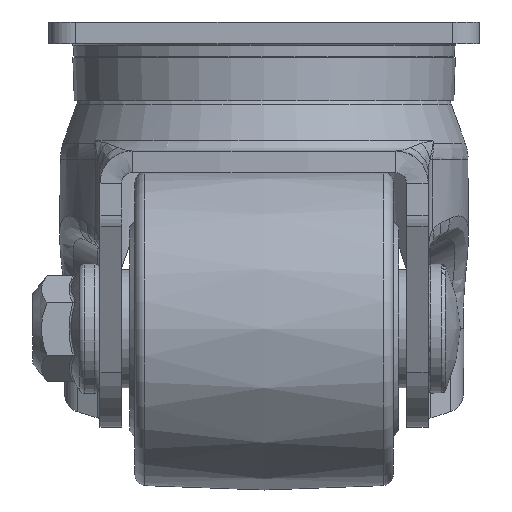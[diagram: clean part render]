
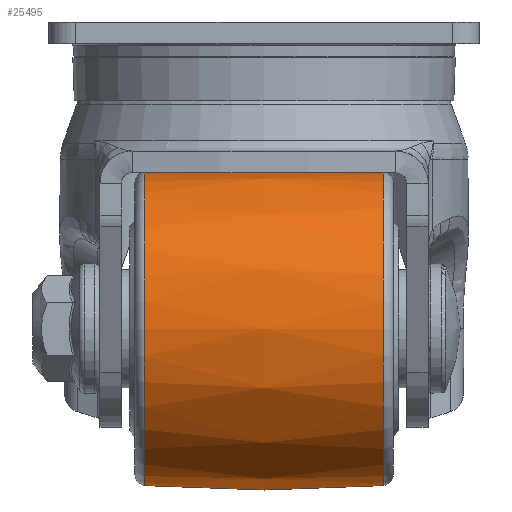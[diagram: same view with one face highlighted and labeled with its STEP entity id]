
A CAD part, left-side view. The second image highlights one B-rep face of the part: STEP entity #25495.
In plain terms, the highlighted free-form (B-spline) face has degree [2, 2] with [3, 9] control points.
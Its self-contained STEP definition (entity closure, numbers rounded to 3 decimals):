
#7180=(
BOUNDED_CURVE()
B_SPLINE_CURVE(2,(#34884,#34885,#34886),.UNSPECIFIED.,.F.,.F.)
B_SPLINE_CURVE_WITH_KNOTS((3,3),(-0.074,0.074),
 .UNSPECIFIED.)
CURVE()
GEOMETRIC_REPRESENTATION_ITEM()
RATIONAL_B_SPLINE_CURVE((1.,0.997,1.))
REPRESENTATION_ITEM('')
);
#7187=(
BOUNDED_SURFACE()
B_SPLINE_SURFACE(2,2,((#34854,#34855,#34856,#34857,#34858,#34859,#34860,
#34861,#34862),(#34863,#34864,#34865,#34866,#34867,#34868,#34869,#34870,
#34871),(#34872,#34873,#34874,#34875,#34876,#34877,#34878,#34879,#34880)),
 .UNSPECIFIED.,.F.,.T.,.F.)
B_SPLINE_SURFACE_WITH_KNOTS((3,3),(3,2,2,2,3),(-0.074,0.074),
(-3.142,-1.571,0.,1.571,3.142),
 .UNSPECIFIED.)
GEOMETRIC_REPRESENTATION_ITEM()
RATIONAL_B_SPLINE_SURFACE(((1.,0.707,1.,0.707,1.,
0.707,1.,0.707,1.),(0.997,0.705,
0.997,0.705,0.997,0.705,
0.997,0.705,0.997),(1.,0.707,
1.,0.707,1.,0.707,1.,0.707,1.)))
REPRESENTATION_ITEM('')
SURFACE()
);
#8569=FACE_OUTER_BOUND('',#9937,.T.);
#9937=EDGE_LOOP('',(#17877,#17878,#17879,#17880,#17881,#17882));
#11404=CIRCLE('',#26864,29.181);
#11405=CIRCLE('',#26865,29.181);
#11407=CIRCLE('',#26868,29.181);
#11408=CIRCLE('',#26869,29.181);
#11557=VERTEX_POINT('',#34847);
#11558=VERTEX_POINT('',#34848);
#11560=VERTEX_POINT('',#34881);
#11561=VERTEX_POINT('',#34882);
#14081=EDGE_CURVE('',#11557,#11558,#11404,.T.);
#14082=EDGE_CURVE('',#11558,#11557,#11405,.T.);
#14084=EDGE_CURVE('',#11560,#11561,#11407,.T.);
#14085=EDGE_CURVE('',#11561,#11558,#7180,.T.);
#14086=EDGE_CURVE('',#11561,#11560,#11408,.T.);
#17877=ORIENTED_EDGE('',*,*,#14084,.T.);
#17878=ORIENTED_EDGE('',*,*,#14085,.T.);
#17879=ORIENTED_EDGE('',*,*,#14081,.F.);
#17880=ORIENTED_EDGE('',*,*,#14082,.F.);
#17881=ORIENTED_EDGE('',*,*,#14085,.F.);
#17882=ORIENTED_EDGE('',*,*,#14086,.T.);
#25495=ADVANCED_FACE('',(#8569),#7187,.F.);
#26864=AXIS2_PLACEMENT_3D('',#34849,#28374,#28375);
#26865=AXIS2_PLACEMENT_3D('',#34850,#28376,#28377);
#26868=AXIS2_PLACEMENT_3D('',#34883,#28382,#28383);
#26869=AXIS2_PLACEMENT_3D('',#34887,#28384,#28385);
#28374=DIRECTION('center_axis',(0.,1.,0.));
#28375=DIRECTION('ref_axis',(-1.,0.,0.));
#28376=DIRECTION('center_axis',(0.,1.,0.));
#28377=DIRECTION('ref_axis',(-1.,0.,0.));
#28382=DIRECTION('center_axis',(0.,1.,0.));
#28383=DIRECTION('ref_axis',(-1.,0.,0.));
#28384=DIRECTION('center_axis',(0.,1.,0.));
#28385=DIRECTION('ref_axis',(-1.,0.,0.));
#34847=CARTESIAN_POINT('',(-50.181,22.148,-11.13));
#34848=CARTESIAN_POINT('',(-21.,22.148,18.051));
#34849=CARTESIAN_POINT('Origin',(-21.,22.148,-11.13));
#34850=CARTESIAN_POINT('Origin',(-21.,22.148,-11.13));
#34854=CARTESIAN_POINT('Ctrl Pts',(-21.,22.148,18.051));
#34855=CARTESIAN_POINT('Ctrl Pts',(-50.181,22.148,18.051));
#34856=CARTESIAN_POINT('Ctrl Pts',(-50.181,22.148,-11.13));
#34857=CARTESIAN_POINT('Ctrl Pts',(-50.181,22.148,-40.311));
#34858=CARTESIAN_POINT('Ctrl Pts',(-21.,22.148,-40.311));
#34859=CARTESIAN_POINT('Ctrl Pts',(8.181,22.148,-40.311));
#34860=CARTESIAN_POINT('Ctrl Pts',(8.181,22.148,-11.13));
#34861=CARTESIAN_POINT('Ctrl Pts',(8.181,22.148,18.051));
#34862=CARTESIAN_POINT('Ctrl Pts',(-21.,22.148,18.051));
#34863=CARTESIAN_POINT('Ctrl Pts',(-21.,0.,
19.691));
#34864=CARTESIAN_POINT('Ctrl Pts',(-51.821,0.,
19.691));
#34865=CARTESIAN_POINT('Ctrl Pts',(-51.821,0.,
-11.13));
#34866=CARTESIAN_POINT('Ctrl Pts',(-51.821,0.,
-41.951));
#34867=CARTESIAN_POINT('Ctrl Pts',(-21.,0.,
-41.951));
#34868=CARTESIAN_POINT('Ctrl Pts',(9.821,0.,
-41.951));
#34869=CARTESIAN_POINT('Ctrl Pts',(9.821,0.,
-11.13));
#34870=CARTESIAN_POINT('Ctrl Pts',(9.821,0.,
19.691));
#34871=CARTESIAN_POINT('Ctrl Pts',(-21.,0.,
19.691));
#34872=CARTESIAN_POINT('Ctrl Pts',(-21.,-22.148,
18.051));
#34873=CARTESIAN_POINT('Ctrl Pts',(-50.181,-22.148,
18.051));
#34874=CARTESIAN_POINT('Ctrl Pts',(-50.181,-22.148,
-11.13));
#34875=CARTESIAN_POINT('Ctrl Pts',(-50.181,-22.148,
-40.311));
#34876=CARTESIAN_POINT('Ctrl Pts',(-21.,-22.148,
-40.311));
#34877=CARTESIAN_POINT('Ctrl Pts',(8.181,-22.148,-40.311));
#34878=CARTESIAN_POINT('Ctrl Pts',(8.181,-22.148,-11.13));
#34879=CARTESIAN_POINT('Ctrl Pts',(8.181,-22.148,18.051));
#34880=CARTESIAN_POINT('Ctrl Pts',(-21.,-22.148,
18.051));
#34881=CARTESIAN_POINT('',(-50.181,-22.148,-11.13));
#34882=CARTESIAN_POINT('',(-21.,-22.148,18.051));
#34883=CARTESIAN_POINT('Origin',(-21.,-22.148,-11.13));
#34884=CARTESIAN_POINT('Ctrl Pts',(-21.,-22.148,
18.051));
#34885=CARTESIAN_POINT('Ctrl Pts',(-21.,0.,
19.691));
#34886=CARTESIAN_POINT('Ctrl Pts',(-21.,22.148,18.051));
#34887=CARTESIAN_POINT('Origin',(-21.,-22.148,-11.13));
